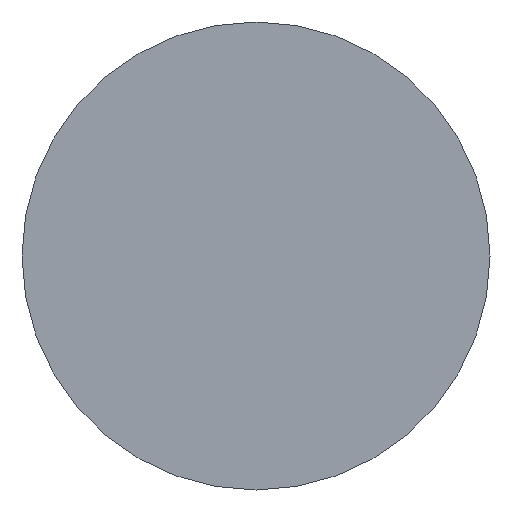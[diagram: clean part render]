
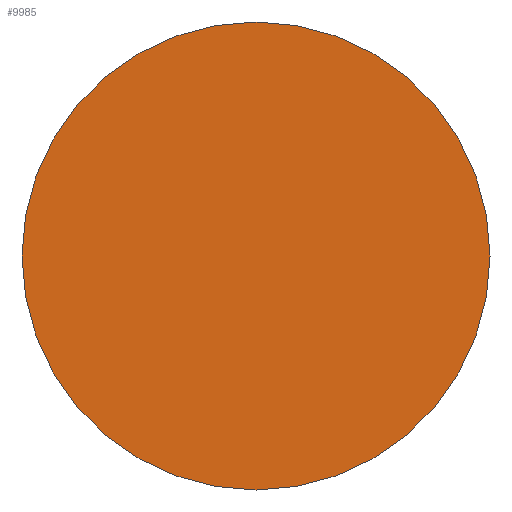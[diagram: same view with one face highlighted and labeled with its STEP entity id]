
A CAD part, front view. The second image highlights one B-rep face of the part: STEP entity #9985.
In plain terms, the highlighted planar face has unit normal (0, -1, 0) as drawn and (0, 0, -1) by its records, which use the part's own axes.
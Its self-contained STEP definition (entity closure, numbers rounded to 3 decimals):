
#450 = VERTEX_POINT ( 'NONE', #8694 ) ;
#1026 = DIRECTION ( 'NONE',  ( 0., 0., 1. ) ) ;
#1037 = EDGE_LOOP ( 'NONE', ( #7816, #7977 ) ) ;
#1289 = CIRCLE ( 'NONE', #2969, 24. ) ;
#1543 = AXIS2_PLACEMENT_3D ( 'NONE', #2898, #1026, #2011 ) ;
#1582 = EDGE_CURVE ( 'NONE', #450, #10396, #9098, .T. ) ;
#2011 = DIRECTION ( 'NONE',  ( 1., 0., 0. ) ) ;
#2898 = CARTESIAN_POINT ( 'NONE',  ( 0., 0., 0. ) ) ;
#2919 = DIRECTION ( 'NONE',  ( 0., 0., 1. ) ) ;
#2934 = AXIS2_PLACEMENT_3D ( 'NONE', #3605, #2919, #9793 ) ;
#2969 = AXIS2_PLACEMENT_3D ( 'NONE', #4150, #7680, #6637 ) ;
#3605 = CARTESIAN_POINT ( 'NONE',  ( 0., 0., 0. ) ) ;
#3780 = FACE_OUTER_BOUND ( 'NONE', #1037, .T. ) ;
#4150 = CARTESIAN_POINT ( 'NONE',  ( 0., 0., 0. ) ) ;
#6637 = DIRECTION ( 'NONE',  ( 1., 0., 0. ) ) ;
#7242 = CARTESIAN_POINT ( 'NONE',  ( 24., 0., 0. ) ) ;
#7313 = PLANE ( 'NONE',  #2934 ) ;
#7587 = EDGE_CURVE ( 'NONE', #10396, #450, #1289, .T. ) ;
#7680 = DIRECTION ( 'NONE',  ( 0., 0., 1. ) ) ;
#7816 = ORIENTED_EDGE ( 'NONE', *, *, #1582, .F. ) ;
#7977 = ORIENTED_EDGE ( 'NONE', *, *, #7587, .F. ) ;
#8694 = CARTESIAN_POINT ( 'NONE',  ( -24., 0., 0. ) ) ;
#9098 = CIRCLE ( 'NONE', #1543, 24. ) ;
#9793 = DIRECTION ( 'NONE',  ( 1., 0., 0. ) ) ;
#9985 = ADVANCED_FACE ( 'NONE', ( #3780 ), #7313, .F. ) ;
#10396 = VERTEX_POINT ( 'NONE', #7242 ) ;
